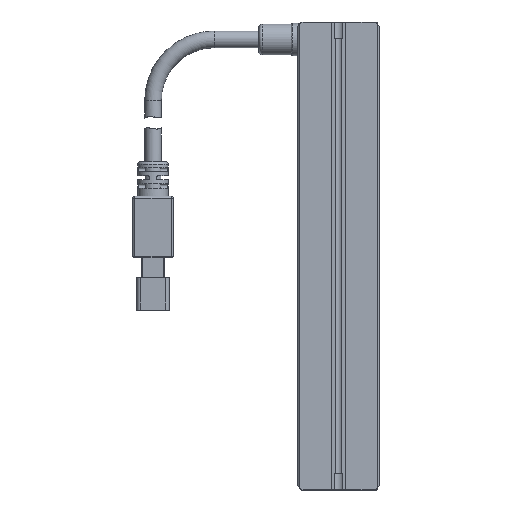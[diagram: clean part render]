
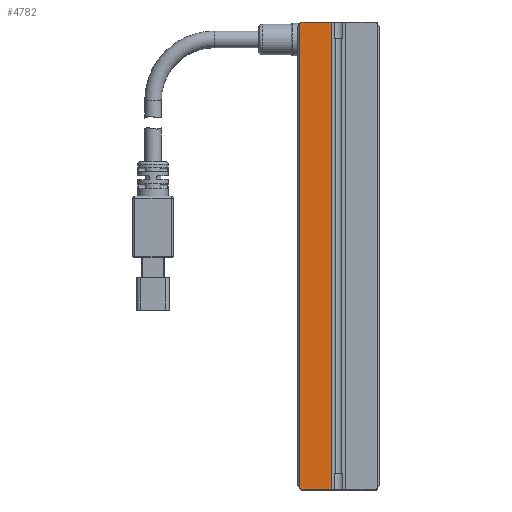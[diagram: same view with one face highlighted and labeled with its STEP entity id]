
A CAD part, front view. The second image highlights one B-rep face of the part: STEP entity #4782.
In plain terms, the highlighted planar face has unit normal (0, -1, 0).
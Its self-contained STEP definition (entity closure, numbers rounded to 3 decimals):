
#181 = LINE ( 'NONE', #15847, #3608 ) ;
#419 = CARTESIAN_POINT ( 'NONE',  ( -9.5, 0., 57.5 ) ) ;
#475 = DIRECTION ( 'NONE',  ( 0., 0., -1. ) ) ;
#505 = ORIENTED_EDGE ( 'NONE', *, *, #7146, .T. ) ;
#1130 = VECTOR ( 'NONE', #2265, 1000. ) ;
#1144 = DIRECTION ( 'NONE',  ( 0.707, 0., -0.707 ) ) ;
#1220 = CARTESIAN_POINT ( 'NONE',  ( 0., 0., -57.5 ) ) ;
#1425 = CARTESIAN_POINT ( 'NONE',  ( -1.75, 0., 57.5 ) ) ;
#1555 = ORIENTED_EDGE ( 'NONE', *, *, #10043, .T. ) ;
#1729 = CARTESIAN_POINT ( 'NONE',  ( -9.5, 0., -57. ) ) ;
#2265 = DIRECTION ( 'NONE',  ( -1., 0., 0. ) ) ;
#2963 = LINE ( 'NONE', #15967, #5302 ) ;
#3491 = DIRECTION ( 'NONE',  ( -0.707, 0., -0.707 ) ) ;
#3608 = VECTOR ( 'NONE', #3491, 1000. ) ;
#3667 = CARTESIAN_POINT ( 'NONE',  ( -9., 0., -57.5 ) ) ;
#3800 = DIRECTION ( 'NONE',  ( -1., 0., 0. ) ) ;
#3804 = LINE ( 'NONE', #419, #5908 ) ;
#4782 = ADVANCED_FACE ( 'NONE', ( #14056 ), #8225, .T. ) ;
#5302 = VECTOR ( 'NONE', #1144, 1000. ) ;
#5637 = DIRECTION ( 'NONE',  ( 0., -1., 0. ) ) ;
#5790 = VERTEX_POINT ( 'NONE', #16341 ) ;
#5908 = VECTOR ( 'NONE', #475, 1000. ) ;
#6898 = DIRECTION ( 'NONE',  ( 0., 0., -1. ) ) ;
#6978 = EDGE_CURVE ( 'NONE', #15316, #8392, #181, .T. ) ;
#6991 = DIRECTION ( 'NONE',  ( 1., 0., 0. ) ) ;
#7146 = EDGE_CURVE ( 'NONE', #14785, #7651, #2963, .T. ) ;
#7294 = EDGE_CURVE ( 'NONE', #14942, #7651, #9717, .T. ) ;
#7305 = AXIS2_PLACEMENT_3D ( 'NONE', #8167, #5637, #6991 ) ;
#7356 = ORIENTED_EDGE ( 'NONE', *, *, #17271, .T. ) ;
#7614 = EDGE_LOOP ( 'NONE', ( #1555, #15498, #7356, #505, #8476, #16013 ) ) ;
#7651 = VERTEX_POINT ( 'NONE', #3667 ) ;
#8167 = CARTESIAN_POINT ( 'NONE',  ( 0., 0., 57.5 ) ) ;
#8225 = PLANE ( 'NONE',  #7305 ) ;
#8392 = VERTEX_POINT ( 'NONE', #9834 ) ;
#8476 = ORIENTED_EDGE ( 'NONE', *, *, #7294, .F. ) ;
#8721 = LINE ( 'NONE', #1425, #9792 ) ;
#9197 = LINE ( 'NONE', #10361, #1130 ) ;
#9717 = LINE ( 'NONE', #1220, #13530 ) ;
#9792 = VECTOR ( 'NONE', #6898, 1000. ) ;
#9834 = CARTESIAN_POINT ( 'NONE',  ( -9.5, 0., 57. ) ) ;
#10043 = EDGE_CURVE ( 'NONE', #5790, #15316, #9197, .T. ) ;
#10361 = CARTESIAN_POINT ( 'NONE',  ( 0., 0., 57.5 ) ) ;
#11043 = CARTESIAN_POINT ( 'NONE',  ( -1.75, 0., -57.5 ) ) ;
#12257 = CARTESIAN_POINT ( 'NONE',  ( -9., 0., 57.5 ) ) ;
#13530 = VECTOR ( 'NONE', #3800, 1000. ) ;
#13853 = EDGE_CURVE ( 'NONE', #5790, #14942, #8721, .T. ) ;
#14056 = FACE_OUTER_BOUND ( 'NONE', #7614, .T. ) ;
#14785 = VERTEX_POINT ( 'NONE', #1729 ) ;
#14942 = VERTEX_POINT ( 'NONE', #11043 ) ;
#15316 = VERTEX_POINT ( 'NONE', #12257 ) ;
#15498 = ORIENTED_EDGE ( 'NONE', *, *, #6978, .T. ) ;
#15847 = CARTESIAN_POINT ( 'NONE',  ( -4.5, 0., 62. ) ) ;
#15967 = CARTESIAN_POINT ( 'NONE',  ( -62., 0., -4.5 ) ) ;
#16013 = ORIENTED_EDGE ( 'NONE', *, *, #13853, .F. ) ;
#16341 = CARTESIAN_POINT ( 'NONE',  ( -1.75, 0., 57.5 ) ) ;
#17271 = EDGE_CURVE ( 'NONE', #8392, #14785, #3804, .T. ) ;
